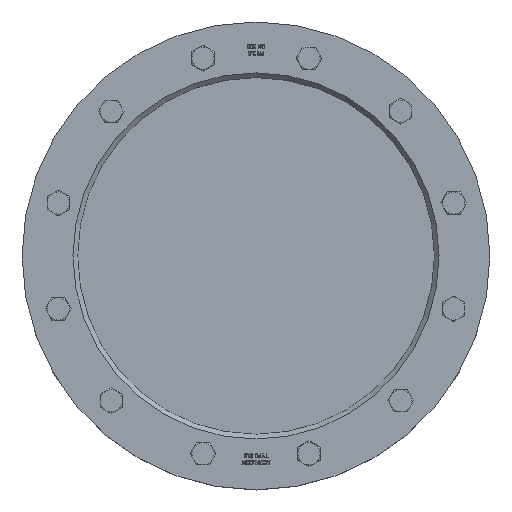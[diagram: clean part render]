
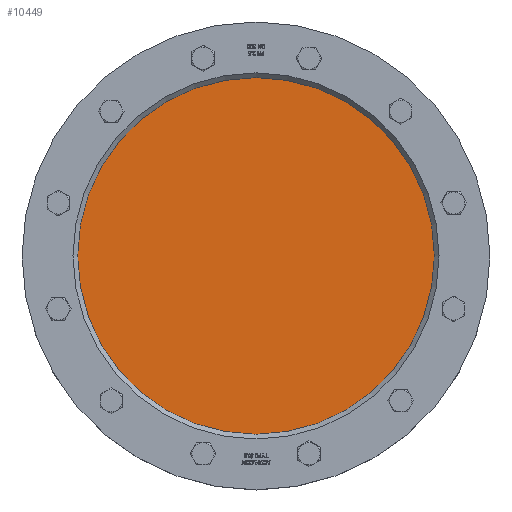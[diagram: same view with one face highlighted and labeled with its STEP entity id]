
A CAD part, top view. The second image highlights one B-rep face of the part: STEP entity #10449.
In plain terms, the highlighted planar face has unit normal (0, 0, 1).
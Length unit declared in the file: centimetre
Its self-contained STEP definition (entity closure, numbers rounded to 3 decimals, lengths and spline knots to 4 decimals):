
#3249=FACE_OUTER_BOUND('',#3845,.T.);
#3845=EDGE_LOOP('',(#7119));
#4520=CIRCLE('',#11049,15.25);
#4624=VERTEX_POINT('',#13475);
#5614=EDGE_CURVE('',#4624,#4624,#4520,.T.);
#7119=ORIENTED_EDGE('',*,*,#5614,.F.);
#10129=PLANE('',#11048);
#10449=ADVANCED_FACE('',(#3249),#10129,.F.);
#11048=AXIS2_PLACEMENT_3D('',#13474,#11565,#11566);
#11049=AXIS2_PLACEMENT_3D('',#13476,#11567,#11568);
#11565=DIRECTION('center_axis',(0.,0.,
-1.));
#11566=DIRECTION('ref_axis',(-1.,0.,0.));
#11567=DIRECTION('center_axis',(0.,0.,
-1.));
#11568=DIRECTION('ref_axis',(1.,0.,0.));
#13474=CARTESIAN_POINT('Origin',(3.6266,0.0625,-11.8311));
#13475=CARTESIAN_POINT('',(-11.6234,0.0625,-11.8311));
#13476=CARTESIAN_POINT('Origin',(3.6266,0.0625,-11.8311));
